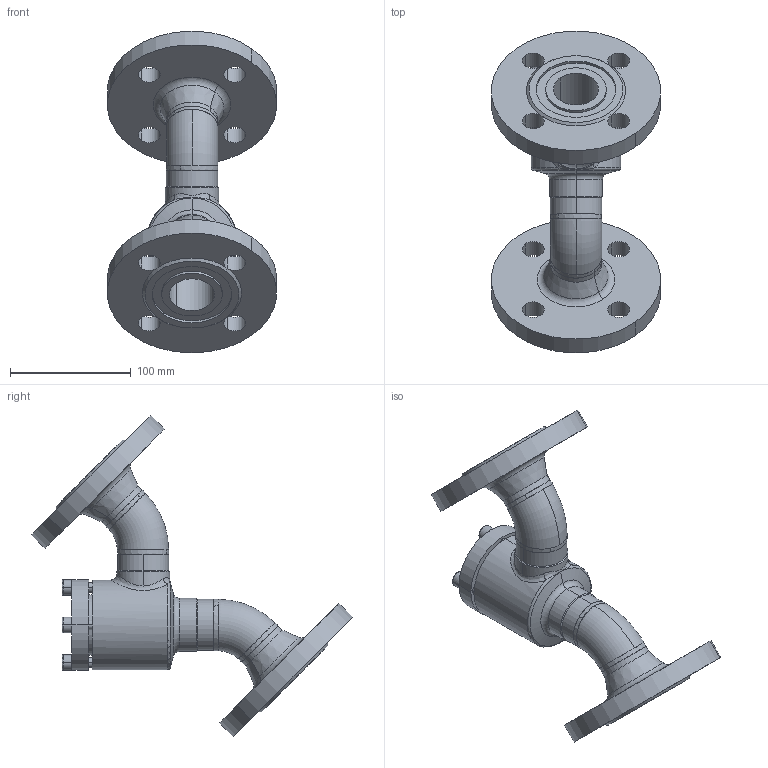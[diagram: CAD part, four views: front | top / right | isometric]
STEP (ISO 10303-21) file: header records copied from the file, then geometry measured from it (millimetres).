
FILE_DESCRIPTION (( 'STEP AP214' ), '1' );
FILE_NAME ('SS52320D13-DN032_DIN-FL-N_PS40.STEP', '2006-05-02T05:47:20', ( 'Herr Grams' ), ( 'AWP GmbH' ), 'SwSTEP 2.0', 'SolidWorks 2002296', '' );
FILE_SCHEMA (( 'AUTOMOTIVE_DESIGN' ));
Length unit declared in the file: millimetre
Products named in the file (13): SS52320D13-DN032_DIN-FL-N_PS40; SS52300E13_Deck+Schr-DN25-32_Standard; Deckel52300E13-DN25-32_Standard; Zylinderschraube-DIN912_M 8x 25; Gehäuse-kpl16320-DN032_DIN_PS40_Standard; Gehäuse-kpl16300-DN032_R1_Standard; Gehäuse16400-DN032_Standard; bead16300-Geh-032-2_Standard; Rohrbogen 45°_R1-Fase_Rohrbogen-DN032-45°; bead16300-Geh-032-1_Standard; Flansch-DIN2635-Nut_PS40_DIN-Flansch-DN032_PS40-Nut; bead16320-DN032-1_Standard; bead16320-DN032-2_Standard
Assembly tree (17 placements, depth 4):
  SS52320D13-DN032_DIN-FL-N_PS40
    SS52300E13_Deck+Schr-DN25-32_Standard
      Zylinderschraube-DIN912_M 8x 25  x4
      Deckel52300E13-DN25-32_Standard
    Gehäuse-kpl16320-DN032_DIN_PS40_Standard
      Flansch-DIN2635-Nut_PS40_DIN-Flansch-DN032_PS40-Nut  x2
      bead16320-DN032-2_Standard
      Gehäuse-kpl16300-DN032_R1_Standard
        Gehäuse16400-DN032_Standard
        bead16300-Geh-032-2_Standard
        Rohrbogen 45°_R1-Fase_Rohrbogen-DN032-45°  x2
        bead16300-Geh-032-1_Standard
      bead16320-DN032-1_Standard
Bounding box: 139.47 x 265.6 x 265.6 mm (x, y, z)
Volume: 736854.1 mm3; surface area: 182519.4 mm2
Topology: 14 solids, 14 shells, 249 faces, 577 edges, 359 vertices
Faces by surface type: cylinder 84, plane 65, cone 58, torus 24, bspline 18
Entity records: 51933 total; most frequent: CARTESIAN_POINT 47714, DIRECTION 742, ORIENTED_EDGE 730, EDGE_CURVE 365, AXIS2_PLACEMENT_3D 314, VERTEX_POINT 227, EDGE_LOOP 182, CIRCLE 156
